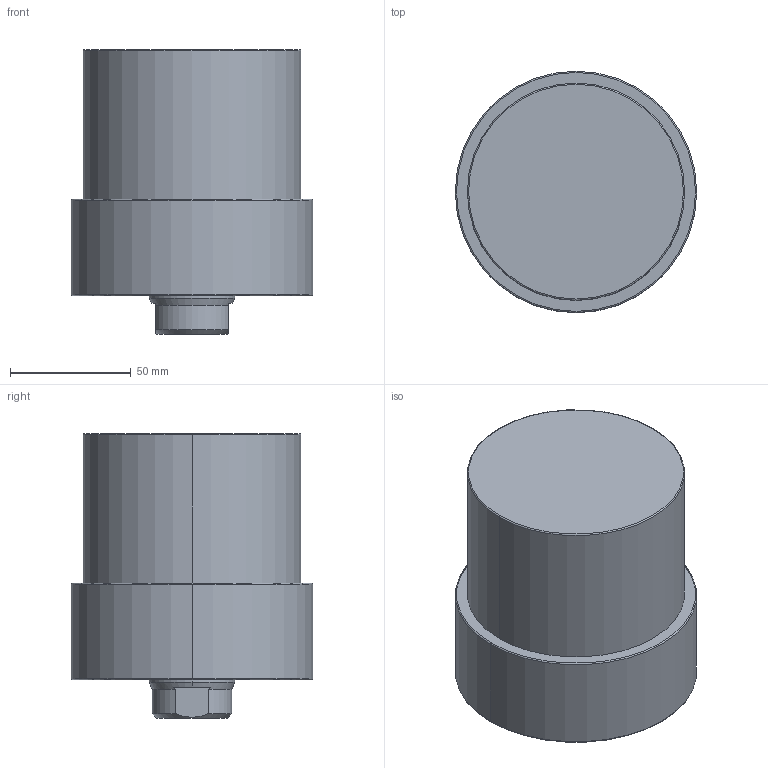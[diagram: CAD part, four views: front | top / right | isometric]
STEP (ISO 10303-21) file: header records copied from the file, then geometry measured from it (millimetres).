
FILE_DESCRIPTION (( 'STEP AP203' ), '1' );
FILE_NAME ('CLLU-090CA-040.STEP', '2020-01-11T00:32:17', ( '' ), ( '' ), 'SwSTEP 2.0', 'SolidWorks 2015', '' );
FILE_SCHEMA (( 'CONFIG_CONTROL_DESIGN' ));
Length unit declared in the file: millimetre
Products named in the file (1): CLLU-090CA-040
Bounding box: 100 x 100 x 118 mm (x, y, z)
Volume: 704135.8 mm3; surface area: 52379.6 mm2
Topology: 1 solids, 1 shells, 62 faces, 140 edges, 79 vertices
Faces by surface type: cone 24, cylinder 22, plane 10, torus 6
Entity records: 1767 total; most frequent: DIRECTION 320, CARTESIAN_POINT 316, ORIENTED_EDGE 260, AXIS2_PLACEMENT_3D 135, EDGE_CURVE 130, VERTEX_POINT 79, CIRCLE 72, EDGE_LOOP 71
